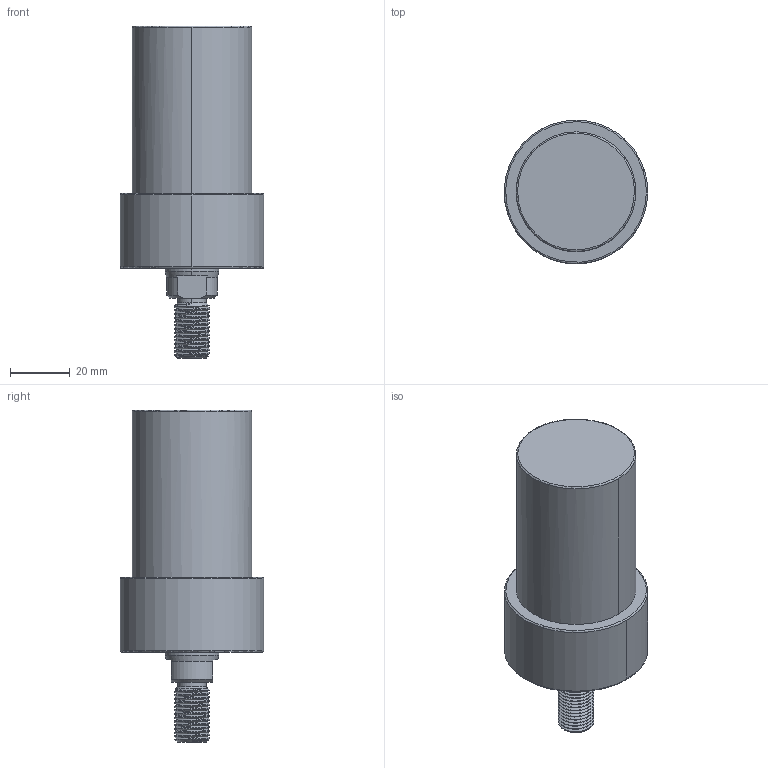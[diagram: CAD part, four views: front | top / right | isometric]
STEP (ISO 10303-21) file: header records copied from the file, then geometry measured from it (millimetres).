
FILE_DESCRIPTION((' '),'2;1');
FILE_NAME( 'TLLU-040GT-045.STEP.stp', '2025-10-24T16:37:14', (' '), ('--- Datakit www.datakit.com---'), ' Datakit CrossCadWare V2024.1 Dec 21 2023', 'Mastercam 2025', ' ');
FILE_SCHEMA(('AUTOMOTIVE_DESIGN { 1 0 10303 214 1 1 1 1 }'));
Length unit declared in the file: millimetre
Products named in the file (1): TLLU-040GT-045
Bounding box: 47.99 x 48 x 111 mm (x, y, z)
Volume: 118751.2 mm3; surface area: 16829.3 mm2
Topology: 1 solids, 1 shells, 95 faces, 337 edges, 245 vertices
Faces by surface type: cylinder 49, cone 26, plane 12, torus 6, bspline 2
Entity records: 8927 total; most frequent: CARTESIAN_POINT 6147, ORIENTED_EDGE 658, DIRECTION 505, EDGE_CURVE 329, VERTEX_POINT 245, AXIS2_PLACEMENT_3D 212, B_SPLINE_CURVE_WITH_KNOTS 129, CIRCLE 118
